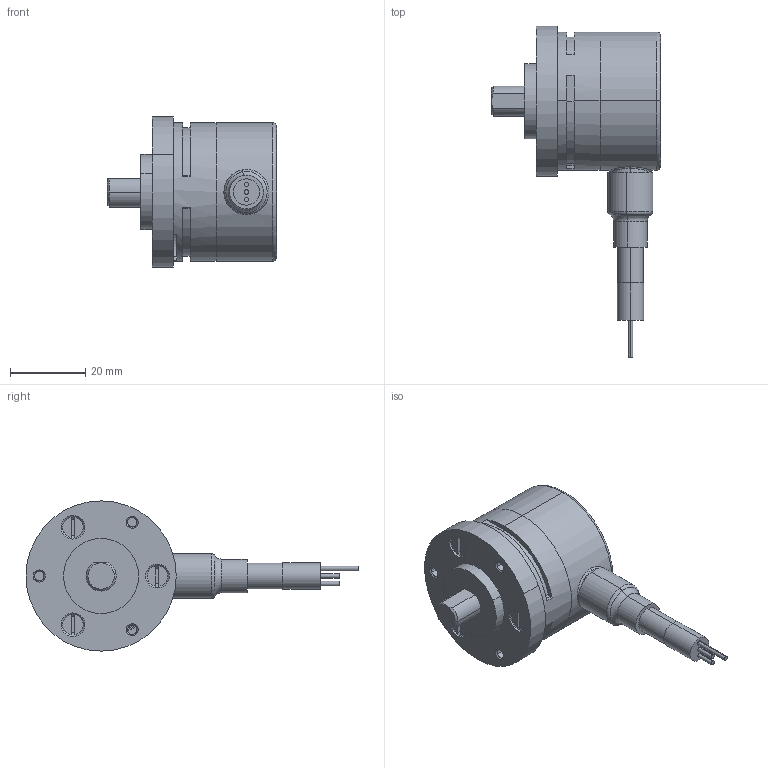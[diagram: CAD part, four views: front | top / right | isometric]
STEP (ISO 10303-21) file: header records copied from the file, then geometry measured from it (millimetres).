
FILE_DESCRIPTION (( 'STEP AP214' ), '1' );
FILE_NAME ('3700.A6X2.XXXX.STEP', '2008-11-25T09:03:14', ( 'admin' ), ( 'Fritz Kübler GmbH' ), 'SwSTEP 2.0', 'SolidWorks 2008', '' );
FILE_SCHEMA (( 'AUTOMOTIVE_DESIGN' ));
Length unit declared in the file: millimetre
Products named in the file (1): 3700.A6X2.XXXX
Bounding box: 45 x 88.4 x 40 mm (x, y, z)
Volume: 21397.8 mm3; surface area: 20959.2 mm2
Topology: 9 solids, 9 shells, 570 faces, 1350 edges, 815 vertices
Faces by surface type: cylinder 239, plane 139, torus 90, cone 48, bspline 29, sphere 25
Entity records: 24104 total; most frequent: CARTESIAN_POINT 4560, DIRECTION 2974, ORIENTED_EDGE 2654, EDGE_CURVE 1327, AXIS2_PLACEMENT_3D 1261, VERTEX_POINT 805, CIRCLE 719, EDGE_LOOP 620
